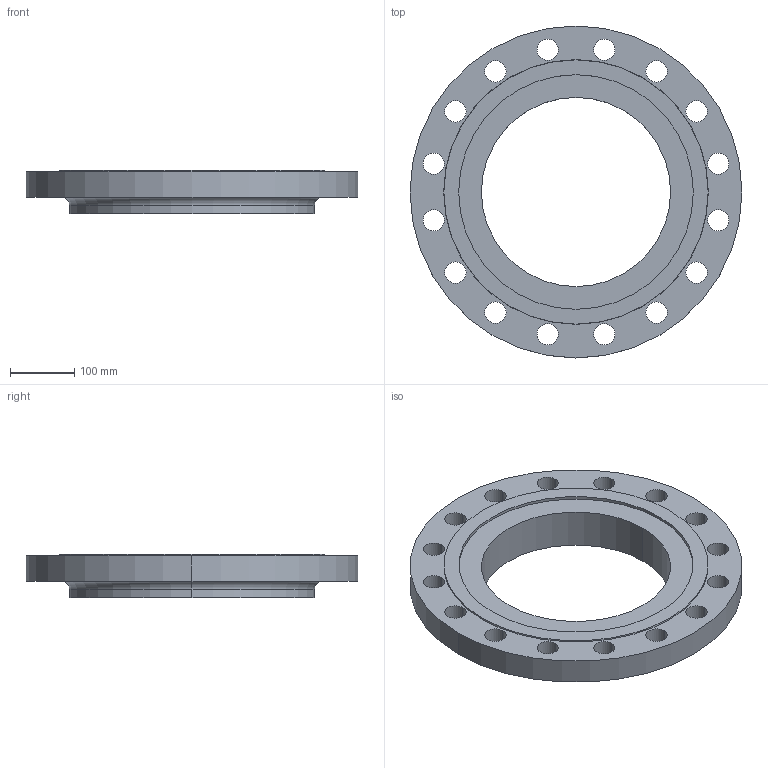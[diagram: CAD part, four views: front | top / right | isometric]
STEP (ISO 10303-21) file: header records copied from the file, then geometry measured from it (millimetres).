
FILE_DESCRIPTION (( 'STEP AP214' ), '1' );
FILE_NAME ('PN40 DN300 Type 13 - Type F Face.STEP', '2019-01-05T20:18:48', ( '' ), ( '' ), 'SwSTEP 2.0', 'SolidWorks 2019', '' );
FILE_SCHEMA (( 'AUTOMOTIVE_DESIGN' ));
Length unit declared in the file: millimetre
Products named in the file (1): PN40 DN300 Type 13 - Type F Face
Bounding box: 515 x 515 x 67 mm (x, y, z)
Volume: 6225181.6 mm3; surface area: 473695.1 mm2
Topology: 1 solids, 1 shells, 49 faces, 130 edges, 86 vertices
Faces by surface type: cylinder 40, plane 5, torus 2, cone 2
Entity records: 1678 total; most frequent: DIRECTION 318, CARTESIAN_POINT 266, ORIENTED_EDGE 260, AXIS2_PLACEMENT_3D 138, EDGE_CURVE 130, CIRCLE 88, VERTEX_POINT 86, EDGE_LOOP 86
